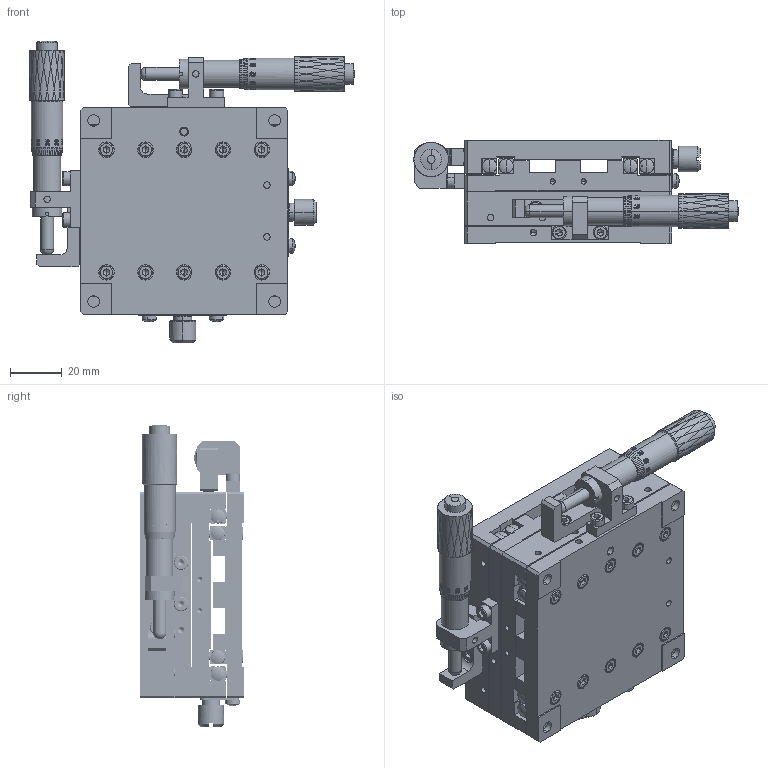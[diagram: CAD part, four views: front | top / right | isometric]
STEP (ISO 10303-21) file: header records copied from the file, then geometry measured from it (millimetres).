
FILE_DESCRIPTION (( 'STEP AP203' ), '1' );
FILE_NAME ('BPB80.STEP', '2023-12-05T00:12:54', ( 'China' ), ( 'Microsoft' ), 'SwSTEP 2.0', 'SolidWorks 2024', '' );
FILE_SCHEMA (( 'CONFIG_CONTROL_DESIGN' ));
Products named in the file (1): BPB80
Bounding box: 125.35 x 40 x 116.7 mm (x, y, z)
Volume: 236142.8 mm3; surface area: 128487.7 mm2
Topology: 82 solids, 82 shells, 4504 faces, 11308 edges, 7124 vertices
Faces by surface type: plane 1422, bspline 1124, cylinder 1122, cone 684, torus 140, sphere 12
Entity records: 218205 total; most frequent: CARTESIAN_POINT 119971, ORIENTED_EDGE 22200, DIRECTION 16914, EDGE_CURVE 11100, VERTEX_POINT 7124, AXIS2_PLACEMENT_3D 6513, EDGE_LOOP 5200, ADVANCED_FACE 4504
